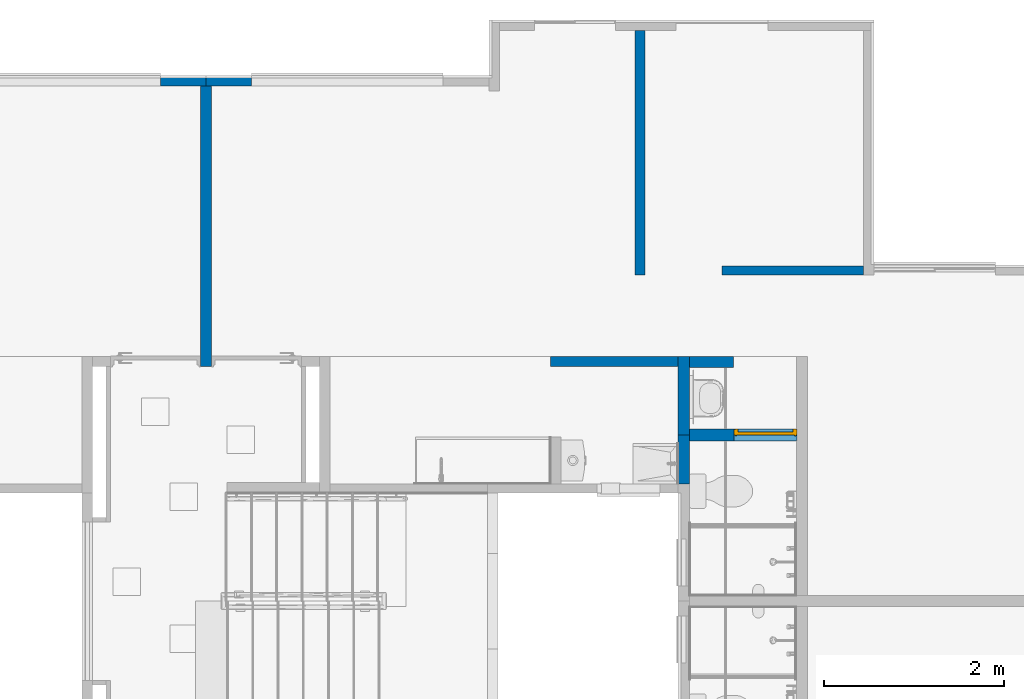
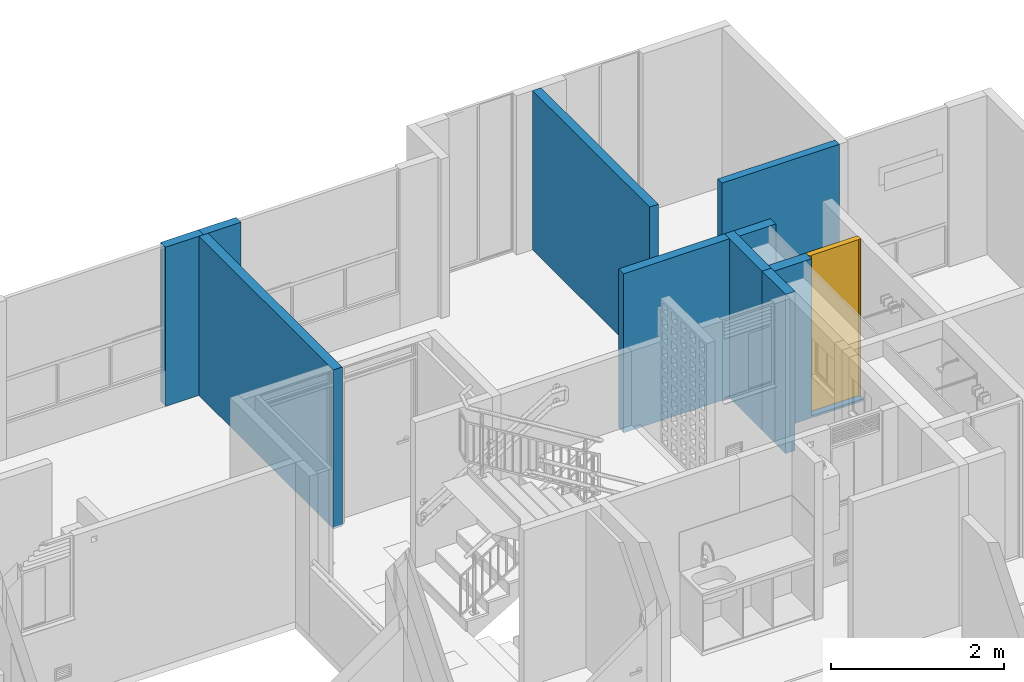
# One storey, part 22 of 48: 10 walls, 1 door, 1 opening.
"""IFC4 building model written with IfcOpenShell, lengths in metres."""

from ifc_helpers import new_model, entity, si_unit, converted_unit, derived_unit, direction, frame, origin, place, context, subcontext, project, spatial, indexed_curve, outline, extrude, polygons, source, transform, mapped, material, constituent, constituent_set, type_object, type_shapes, element, fill, save


model = new_model("IFC4")

# Units and contexts
model_context = context("Model", 3, precision=1e-05, world=origin(), true_north=direction((6.123031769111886e-17, 1.0)))
body_context = subcontext(model_context, "Body", "Model", "MODEL_VIEW")
ifc_project = project(units=[si_unit("LENGTHUNIT", "METRE"), si_unit("AREAUNIT", "SQUARE_METRE"), si_unit("VOLUMEUNIT", "CUBIC_METRE"), converted_unit("PLANEANGLEUNIT", "DEGREE", entity("IfcRatioMeasure", 0.017453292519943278), si_unit("PLANEANGLEUNIT", "RADIAN"), dimensions=[0, 0, 0, 0, 0, 0, 0]), si_unit("MASSUNIT", "GRAM", prefix="KILO"), derived_unit("MASSDENSITYUNIT", [(si_unit("MASSUNIT", "GRAM", prefix="KILO"), 1), (si_unit("LENGTHUNIT", "METRE"), -3)]), derived_unit("IONCONCENTRATIONUNIT", [(si_unit("MASSUNIT", "GRAM", prefix="KILO"), 1), (si_unit("LENGTHUNIT", "METRE"), -3)]), derived_unit("MOMENTOFINERTIAUNIT", [(si_unit("LENGTHUNIT", "METRE"), 4)]), si_unit("TIMEUNIT", "SECOND"), si_unit("FREQUENCYUNIT", "HERTZ"), si_unit("THERMODYNAMICTEMPERATUREUNIT", "DEGREE_CELSIUS"), derived_unit("THERMALTRANSMITTANCEUNIT", [(si_unit("MASSUNIT", "GRAM", prefix="KILO"), 1), (si_unit("THERMODYNAMICTEMPERATUREUNIT", "KELVIN"), -1), (si_unit("TIMEUNIT", "SECOND"), -3)]), derived_unit("THERMALCONDUCTANCEUNIT", [(si_unit("MASSUNIT", "GRAM", prefix="KILO"), 1), (si_unit("THERMODYNAMICTEMPERATUREUNIT", "KELVIN"), -1), (si_unit("TIMEUNIT", "SECOND"), -3), (si_unit("LENGTHUNIT", "METRE"), 1)]), derived_unit("VOLUMETRICFLOWRATEUNIT", [(si_unit("LENGTHUNIT", "METRE"), 3), (si_unit("TIMEUNIT", "SECOND"), -1)]), derived_unit("MASSFLOWRATEUNIT", [(si_unit("MASSUNIT", "GRAM", prefix="KILO"), 1), (si_unit("TIMEUNIT", "SECOND"), -1)]), derived_unit("ROTATIONALFREQUENCYUNIT", [(si_unit("TIMEUNIT", "SECOND"), -1)]), si_unit("ELECTRICCURRENTUNIT", "AMPERE"), si_unit("ELECTRICVOLTAGEUNIT", "VOLT"), si_unit("POWERUNIT", "WATT"), si_unit("FORCEUNIT", "NEWTON", prefix="KILO"), si_unit("ILLUMINANCEUNIT", "LUX"), si_unit("LUMINOUSFLUXUNIT", "LUMEN"), si_unit("LUMINOUSINTENSITYUNIT", "CANDELA"), derived_unit("USERDEFINED", [(si_unit("MASSUNIT", "GRAM", prefix="KILO"), -1), (si_unit("LENGTHUNIT", "METRE"), -2), (si_unit("TIMEUNIT", "SECOND"), 3), (si_unit("LUMINOUSFLUXUNIT", "LUMEN"), 1)]), derived_unit("USERDEFINED", [(si_unit("MASSUNIT", "GRAM", prefix="KILO"), 1), (si_unit("TIMEUNIT", "SECOND"), -3), (si_unit("LENGTHUNIT", "METRE"), 3), (si_unit("ELECTRICCURRENTUNIT", "AMPERE"), -2)]), derived_unit("SOUNDPOWERUNIT", [(si_unit("MASSUNIT", "GRAM", prefix="KILO"), 1), (si_unit("TIMEUNIT", "SECOND"), -3), (si_unit("LENGTHUNIT", "METRE"), 2)]), derived_unit("SOUNDPRESSUREUNIT", [(si_unit("MASSUNIT", "GRAM", prefix="KILO"), 1), (si_unit("LENGTHUNIT", "METRE"), -1), (si_unit("TIMEUNIT", "SECOND"), -2)]), derived_unit("LINEARVELOCITYUNIT", [(si_unit("LENGTHUNIT", "METRE"), 1), (si_unit("TIMEUNIT", "SECOND"), -1)]), si_unit("PRESSUREUNIT", "PASCAL"), derived_unit("USERDEFINED", [(si_unit("MASSUNIT", "GRAM", prefix="KILO"), 1), (si_unit("LENGTHUNIT", "METRE"), -2), (si_unit("TIMEUNIT", "SECOND"), -2)]), derived_unit("LINEARFORCEUNIT", [(si_unit("MASSUNIT", "GRAM", prefix="KILO"), 1), (si_unit("TIMEUNIT", "SECOND"), -2)]), derived_unit("PLANARFORCEUNIT", [(si_unit("MASSUNIT", "GRAM", prefix="KILO"), 1), (si_unit("LENGTHUNIT", "METRE"), -1), (si_unit("TIMEUNIT", "SECOND"), -2)]), derived_unit("SPECIFICHEATCAPACITYUNIT", [(si_unit("THERMODYNAMICTEMPERATUREUNIT", "KELVIN"), -1), (si_unit("LENGTHUNIT", "METRE"), 2), (si_unit("TIMEUNIT", "SECOND"), -2)]), derived_unit("HEATINGVALUEUNIT", [(si_unit("LENGTHUNIT", "METRE"), 2), (si_unit("TIMEUNIT", "SECOND"), -2)]), derived_unit("VAPORPERMEABILITYUNIT", [(si_unit("LENGTHUNIT", "METRE"), -1), (si_unit("TIMEUNIT", "SECOND"), 1)]), derived_unit("DYNAMICVISCOSITYUNIT", [(si_unit("MASSUNIT", "GRAM", prefix="KILO"), 1), (si_unit("TIMEUNIT", "SECOND"), -1), (si_unit("LENGTHUNIT", "METRE"), -1)]), derived_unit("THERMALEXPANSIONCOEFFICIENTUNIT", [(si_unit("THERMODYNAMICTEMPERATUREUNIT", "KELVIN"), -1)]), derived_unit("MODULUSOFELASTICITYUNIT", [(si_unit("MASSUNIT", "GRAM", prefix="KILO"), 1), (si_unit("LENGTHUNIT", "METRE"), -1), (si_unit("TIMEUNIT", "SECOND"), -2)]), derived_unit("ISOTHERMALMOISTURECAPACITYUNIT", [(si_unit("LENGTHUNIT", "METRE"), 3), (si_unit("MASSUNIT", "GRAM", prefix="KILO"), -1)]), derived_unit("MOISTUREDIFFUSIVITYUNIT", [(si_unit("TIMEUNIT", "SECOND"), -1), (si_unit("LENGTHUNIT", "METRE"), 2)])], contexts=[model_context])

# Site, building, storey
site_placement = place(None, origin())
site = spatial("IfcSite", under=ifc_project, at=site_placement, Name="Default", CompositionType="ELEMENT")
building_placement = place(site_placement, origin())
building = spatial("IfcBuilding", under=site, at=building_placement, CompositionType="ELEMENT")
storey_placement = place(building_placement, frame((0.0, 0.0, 7.050000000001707)))
storey = spatial("IfcBuildingStorey", under=building, at=storey_placement, Name="Nivel 4", CompositionType="ELEMENT", Elevation=7.050000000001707)

# Walls
ifc_material_1 = material(Name="Concreto (Aire)", Category="Materials")
wall_type_1 = type_object("IfcWallType", Name="Basic Wall:B2010 - 0.12m - Muro interior en concreto", PredefinedType="STANDARD")
wall_1_placement = place(storey_placement, frame((9.32250000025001, -3.8249999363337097, 0.0), z_axis=(0.0, 0.0, 1.0), x_axis=(0.0, 1.0, 0.0)))
element("IfcWall", 1, at=wall_1_placement, inside=storey, type_object=wall_type_1, material=ifc_material_1, Name="Basic Wall:B2010 - 0.12m - Muro interior en concreto", ObjectType="Basic Wall:B2010 - 0.12m - Muro interior en concreto", PredefinedType="NOTDEFINED", context=body_context, shape_type="SweptSolid", body=[
    extrude(outline(indexed_curve([(3.1149999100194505, 0.06000000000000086), (8.03641024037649e-16, 0.060000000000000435), (2.792261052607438e-16, -0.060000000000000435), (3.1149999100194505, -0.06000000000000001), (3.1149999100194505, 0.06000000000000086)], self_intersect=False)), origin(), (0.0, 0.0, 1.0), 2.250000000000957),
])
ifc_material_2 = material(Name="LADRILLO CLARO", Category="Materials")
wall_type_2 = type_object("IfcWallType", Name="Basic Wall:B2010 - 0.115m - ME mampostería no estructural - Ladrillo", PredefinedType="STANDARD")
wall_2_placement = place(storey_placement, frame((8.817499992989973, -0.6525000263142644, 0.0)))
element("IfcWall", 2, at=wall_2_placement, inside=storey, type_object=wall_type_2, material=ifc_material_2, Name="Basic Wall:B2010 - 0.115m - ME mampostería no estructural - Ladrillo", ObjectType="Basic Wall:B2010 - 0.115m - ME mampostería no estructural - Ladrillo", PredefinedType="NOTDEFINED", context=body_context, shape_type="SweptSolid", body=[
    extrude(outline(indexed_curve([(0.505000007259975, 0.057500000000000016), (-1.5987656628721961e-15, 0.05749999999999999), (-5.6696859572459e-16, -0.05750000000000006), (0.505000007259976, -0.05750000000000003), (0.505000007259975, 0.057500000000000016)], self_intersect=False)), origin(), (0.0, 0.0, 1.0), 2.2500000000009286),
])
wall_3_placement = place(storey_placement, frame((9.827500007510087, -0.6525000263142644, 0.0), z_axis=(0.0, 0.0, 1.0), x_axis=(-1.0, 0.0, 0.0)))
element("IfcWall", 3, at=wall_3_placement, inside=storey, type_object=wall_type_2, material=ifc_material_2, Name="Basic Wall:B2010 - 0.115m - ME mampostería no estructural - Ladrillo", ObjectType="Basic Wall:B2010 - 0.115m - ME mampostería no estructural - Ladrillo", PredefinedType="NOTDEFINED", context=body_context, shape_type="SweptSolid", body=[
    extrude(outline(indexed_curve([(0.5050000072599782, 0.05750000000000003), (-5.6696859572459e-16, 0.05750000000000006), (5.669685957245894e-16, -0.05749999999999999), (0.5050000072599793, -0.057500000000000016), (0.5050000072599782, 0.05750000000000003)], self_intersect=False)), origin(), (0.0, 0.0, 1.0), 2.2500000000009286),
])
ifc_material_3 = material(Name="Ladrillo claro (Aire)", Category="Materials")
wall_type_3 = type_object("IfcWallType", Name="Basic Wall:B2010 - 0.115m - Muro interior en mampostería - Ladrillo", PredefinedType="STANDARD")
wall_4_placement = place(storey_placement, frame((14.135000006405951, -0.09500002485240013, 0.0), z_axis=(0.0, 0.0, 1.0), x_axis=(0.0, -1.0, 0.0)))
element("IfcWall", 4, at=wall_4_placement, inside=storey, type_object=wall_type_3, material=ifc_material_3, Name="Basic Wall:B2010 - 0.115m - Muro interior en mampostería - Ladrillo", ObjectType="Basic Wall:B2010 - 0.115m - Muro interior en mampostería - Ladrillo", PredefinedType="NOTDEFINED", context=body_context, shape_type="SweptSolid", body=[
    extrude(outline(indexed_curve([(2.7150000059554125, 0.05749999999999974), (-3.2594452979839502e-18, 0.057499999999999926), (3.2594452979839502e-18, -0.057499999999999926), (2.7150000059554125, -0.05750000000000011), (2.7150000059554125, 0.05749999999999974)], self_intersect=False)), origin(), (0.0, 0.0, 1.0), 2.2499999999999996),
])
wall_5_placement = place(storey_placement, frame((14.557500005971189, -3.7675000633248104, 0.0), z_axis=(0.0, 0.0, 1.0), x_axis=(-1.0, 0.0, 0.0)))
element("IfcWall", 5, at=wall_5_placement, inside=storey, type_object=wall_type_3, material=ifc_material_3, Name="Basic Wall:B2010 - 0.115m - Muro interior en mampostería - Ladrillo", ObjectType="Basic Wall:B2010 - 0.115m - Muro interior en mampostería - Ladrillo", PredefinedType="NOTDEFINED", context=body_context, shape_type="SweptSolid", body=[
    extrude(outline(indexed_curve([(1.414999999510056, 0.057499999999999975), (1.9595423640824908e-16, 0.057499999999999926), (-1.9595423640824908e-16, -0.057499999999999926), (1.4149999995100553, -0.05749999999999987), (1.414999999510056, 0.057499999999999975)], self_intersect=False)), origin(), (0.0, 0.0, 1.0), 2.2499999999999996),
])
wall_type_4 = type_object("IfcWallType", Name="Basic Wall:B2010 - 0.10m - Muro interior en concreto", PredefinedType="STANDARD")
wall_6_placement = place(storey_placement, frame((16.612500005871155, -2.7600000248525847, 0.0), z_axis=(0.0, 0.0, 1.0), x_axis=(-1.0, 0.0, 0.0)))
element("IfcWall", 6, at=wall_6_placement, inside=storey, type_object=wall_type_4, material=ifc_material_1, Name="Basic Wall:B2010 - 0.10m - Muro interior en concreto", ObjectType="Basic Wall:B2010 - 0.10m - Muro interior en concreto", PredefinedType="NOTDEFINED", context=body_context, shape_type="SweptSolid", body=[
    extrude(outline(indexed_curve([(1.569999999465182, 0.050000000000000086), (-1.0889063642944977e-15, 0.05), (-3.2425621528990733e-15, -0.05), (1.5699999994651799, -0.04999999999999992), (1.569999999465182, 0.050000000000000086)], self_intersect=False)), origin(), (0.0, 0.0, 1.0), 2.2499999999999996),
])
ifc_material_4 = material(Name="Pañete", Category="Materials")
ifc_constituent_1 = constituent(ifc_material_4, Name="Pañete", Category="Materials")
ifc_constituent_2 = constituent(ifc_material_3, Name="Ladrillo claro (Aire)", Category="Materials")
ifc_constituent_set_1 = constituent_set(constituents=[ifc_constituent_1, ifc_constituent_2], Name="Basic Wall:B2010 - 0.115m - Muro interior en mampostería - Ladrillo + Pañete")
wall_type_5 = type_object("IfcWallType", Name="Basic Wall:B2010 - 0.115m - Muro interior en mampostería - Ladrillo + Pañete", PredefinedType="STANDARD", material=ifc_constituent_set_1)
wall_7_placement = place(storey_placement, frame((15.172500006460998, -3.7725000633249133, 0.0), z_axis=(0.0, 0.0, 1.0), x_axis=(-1.0, 0.0, 0.0)))
element("IfcWall", 7, at=wall_7_placement, inside=storey, type_object=wall_type_5, material=ifc_constituent_set_1, Name="Basic Wall:B2010 - 0.115m - Muro interior en mampostería - Ladrillo + Pañete", ObjectType="Basic Wall:B2010 - 0.115m - Muro interior en mampostería - Ladrillo + Pañete", PredefinedType="NOTDEFINED", context=body_context, shape_type="SweptSolid", body=[
    extrude(outline(indexed_curve([(-0.004999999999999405, -0.24500000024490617), (0.0050000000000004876, -0.24500000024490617), (0.004999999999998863, 0.245000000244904), (-0.005000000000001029, 0.245000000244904), (-0.004999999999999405, -0.24500000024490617)], self_intersect=False)), frame((0.24500000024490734, 0.057499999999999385, 0.0), z_axis=(0.0, 0.0, 1.0), x_axis=(0.0, -1.0, 0.0)), (0.0, 0.0, 1.0), 2.2500000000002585),
    extrude(outline(indexed_curve([(-0.057499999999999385, -0.245000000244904), (0.05750000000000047, -0.245000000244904), (0.057499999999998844, 0.24500000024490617), (-0.05750000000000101, 0.24500000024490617), (-0.057499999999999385, -0.245000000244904)], self_intersect=False)), frame((0.24500000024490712, -0.004999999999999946, 0.0), z_axis=(0.0, 0.0, 1.0), x_axis=(0.0, 1.0, 0.0)), (0.0, 0.0, 1.0), 2.2500000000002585),
])

# Wall, opening, door
ifc_constituent_3 = constituent(ifc_material_4, Name="Pañete", Category="Materials")
ifc_constituent_4 = constituent(ifc_material_2, Name="LADRILLO CLARO", Category="Materials")
ifc_constituent_5 = constituent(ifc_material_4, Name="Pañete (2)", Category="Materials")
ifc_constituent_set_2 = constituent_set(constituents=[ifc_constituent_3, ifc_constituent_4, ifc_constituent_5], Name="Basic Wall:B2010 - 0.115m - MI  mampostería no estructural - Pañete + Ladrillo + Pañete")
wall_type_6 = type_object("IfcWallType", Name="Basic Wall:B2010 - 0.115m - MI  mampostería no estructural - Pañete + Ladrillo + Pañete", PredefinedType="STANDARD", material=ifc_constituent_set_2)
wall_8_placement = place(storey_placement, frame((14.682500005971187, -4.582500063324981, 0.0)))
wall_8 = element("IfcWall", 8, at=wall_8_placement, inside=storey, type_object=wall_type_6, material=ifc_constituent_set_2, Name="Basic Wall:B2010 - 0.115m - MI  mampostería no estructural - Pañete + Ladrillo + Pañete", ObjectType="Basic Wall:B2010 - 0.115m - MI  mampostería no estructural - Pañete + Ladrillo + Pañete", PredefinedType="NOTDEFINED", context=body_context, shape_type="SweptSolid", body=[
    extrude(outline(indexed_curve([(-1.1325000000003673, -0.5199994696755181), (1.1175000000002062, -0.5199994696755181), (1.1175000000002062, -0.12999946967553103), (1.1175000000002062, -0.10999946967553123), (1.1175000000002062, -0.0250005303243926), (-1.102500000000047, -0.0250005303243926), (-1.102500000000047, 0.6649994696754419), (-1.1325000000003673, 0.6649994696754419), (-1.1325000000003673, -0.5199994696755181)], self_intersect=False)), frame((0.5199994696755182, -0.06750000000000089, 1.1325000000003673), z_axis=(0.0, 1.0, 0.0), x_axis=(0.0, 0.0, 1.0)), (0.0, 0.0, 1.0), 0.010000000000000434),
    extrude(outline(indexed_curve([(-0.7600000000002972, -0.5599992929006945), (1.4900000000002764, -0.5599992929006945), (1.4900000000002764, -0.06500035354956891), (-0.729999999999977, -0.06500035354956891), (-0.729999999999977, 0.6249996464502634), (-0.7600000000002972, 0.6249996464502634), (-0.7600000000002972, -0.5599992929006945)], self_intersect=False)), frame((0.5599992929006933, 0.057499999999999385, 0.7600000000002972), z_axis=(0.0, 1.0, 0.0), x_axis=(0.0, 0.0, 1.0)), (0.0, 0.0, 1.0), 0.009999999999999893),
    extrude(outline(indexed_curve([(-0.7600000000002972, -0.5633326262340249), (1.4900000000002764, -0.563332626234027), (1.4900000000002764, -0.06833368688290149), (-0.729999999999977, -0.06833368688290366), (-0.729999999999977, 0.6316663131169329), (-0.7600000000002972, 0.6316663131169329), (-0.7600000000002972, -0.5633326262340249)], self_intersect=False)), frame((0.563332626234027, -0.05750000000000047, 0.7600000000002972), z_axis=(0.0, 1.0, 0.0), x_axis=(0.0, 0.0, 1.0)), (0.0, 0.0, 1.0), 0.11499999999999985),
])
opening_placement = place(wall_8_placement, frame((1.1949989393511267, 0.06749999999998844, 0.029999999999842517)))
opening = element("IfcOpeningElement", 9, at=opening_placement, cuts=wall_8, Name="C1030 - Puerta batiente - Madera+Aluminio:C1030 - 0.70 x 2.22 - Puerta batiente - Madera+ Metal:1", PredefinedType="OPENING", context=body_context, shape_type="SweptSolid", body=[
    extrude(outline(indexed_curve([(1.438182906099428e-16, 0.7000000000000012), (1.438182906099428e-16, 0.0), (2.219999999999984, 0.0), (2.2199999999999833, 0.7000000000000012), (1.438182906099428e-16, 0.7000000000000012)], self_intersect=False)), frame((0.0, 0.0, 0.0), z_axis=(0.0, -1.0, 0.0), x_axis=(0.0, 0.0, 1.0)), (0.0, 0.0, 1.0), 0.13499999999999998),
])
ifc_material_5 = material(Name="<Unnamed>")
door_type = type_object("IfcDoorType", Name="C1030 - Puerta batiente - Madera+Aluminio:C1030 - 0.70 x 2.22 - Puerta batiente - Madera+ Metal", OperationType="SINGLE_SWING_LEFT", PredefinedType="DOOR", material=ifc_material_5)
shared_shape = source(origin(), body_context, "Body", "Tessellation", [
    polygons([(0.6699999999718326, 0.06499999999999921, 0.009880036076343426), (0.6699999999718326, 0.0324999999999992, 0.009880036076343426), (0.030000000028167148, 0.0324999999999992, 0.009880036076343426), (0.030000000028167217, 0.06499999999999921, 0.009880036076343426), (0.6699999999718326, 0.06499999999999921, 2.2050000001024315), (0.6699999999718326, 0.0324999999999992, 2.2050000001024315), (0.030000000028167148, 0.0324999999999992, 2.2050000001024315), (0.030000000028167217, 0.06499999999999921, 2.2050000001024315)], [[[1, 2, 3, 4]], [[5, 6, 2, 1]], [[6, 7, 3, 2]], [[7, 8, 4, 3]], [[8, 5, 1, 4]], [[5, 8, 7, 6]]], closed=True),
    polygons([(0.6849999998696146, 0.0649999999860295, 0.0), (0.7, 0.0649999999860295, 0.0), (0.7, 0.0074999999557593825, 0.0), (0.6849999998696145, 0.007499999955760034, 0.0), (0.6849999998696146, -5.075939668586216e-17, 0.0), (0.6549999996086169, -1.6919798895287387e-17, 0.0), (0.6549999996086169, 0.04000000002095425, 0.0), (0.6699999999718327, 0.04000000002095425, 0.0), (0.6699999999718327, 0.07999999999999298, 0.0), (0.6849999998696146, 0.07999999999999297, 0.0), (0.7, 0.0074999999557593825, 2.2199999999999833), (0.6849999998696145, 0.007499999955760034, 2.2199999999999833), (0.6849999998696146, 0.0649999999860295, 2.2199999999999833), (0.7, 0.0649999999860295, 2.2199999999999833), (0.015000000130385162, 0.06499999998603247, 0.0), (0.015000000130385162, 0.07999999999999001, 0.0), (0.030000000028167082, 0.07999999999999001, 0.0), (0.030000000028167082, 0.04000000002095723, 0.0), (0.04500000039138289, 0.04000000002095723, 0.0), (0.04500000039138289, 0.0, 0.0), (0.01500000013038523, 0.0, 0.0), (0.015000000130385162, 0.007499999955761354, 0.0), (0.0, 0.007499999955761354, 0.0), (0.0, 0.06499999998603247, 0.0), (0.0, 0.06499999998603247, 2.2199999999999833), (0.015000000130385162, 0.06499999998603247, 2.2199999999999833), (0.015000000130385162, 0.007499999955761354, 2.2199999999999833), (0.0, 0.007499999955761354, 2.2199999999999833), (0.04500000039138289, 0.04000000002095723, 2.2050000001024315), (0.04500000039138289, 0.03250000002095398, 2.2050000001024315), (0.04500000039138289, 0.03250000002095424, 2.189999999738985), (0.04500000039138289, 0.0, 2.189999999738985), (0.6549999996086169, -1.6919798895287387e-17, 2.189999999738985), (0.6549999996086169, 0.032500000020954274, 2.189999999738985), (0.6549999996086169, 0.03250000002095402, 2.2050000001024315), (0.6549999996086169, 0.04000000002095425, 2.2050000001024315), (0.030000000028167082, 0.07999999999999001, 2.2199999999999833), (0.030000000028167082, 0.07249999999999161, 2.2199999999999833), (0.030000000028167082, 0.07249999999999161, 2.2050000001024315), (0.030000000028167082, 0.04000000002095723, 2.2050000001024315), (0.6699999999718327, 0.04000000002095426, 2.2050000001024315), (0.6699999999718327, 0.07249999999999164, 2.2050000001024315), (0.6699999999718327, 0.07249999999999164, 2.2199999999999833), (0.6699999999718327, 0.07999999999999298, 2.2199999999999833), (0.015000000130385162, 0.07999999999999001, 2.2199999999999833), (0.6849999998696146, -5.075939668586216e-17, 2.2199999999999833), (0.01500000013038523, 0.0, 2.2199999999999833), (0.6849999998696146, 0.07999999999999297, 2.2199999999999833)], [[[1, 2, 3, 4, 5, 6, 7, 8, 9, 10]], [[11, 12, 4, 3]], [[13, 14, 2, 1]], [[15, 16, 17, 18, 19, 20, 21, 22, 23, 24]], [[25, 26, 15, 24]], [[27, 28, 23, 22]], [[20, 19, 29, 30, 31, 32]], [[7, 6, 33, 34, 35, 36]], [[18, 17, 37, 38, 39, 40]], [[9, 8, 41, 42, 43, 44]], [[28, 25, 24, 23]], [[14, 11, 3, 2]], [[26, 45, 16, 15]], [[45, 37, 17, 16]], [[19, 18, 40, 29]], [[21, 20, 32, 33, 6, 5, 46, 47]], [[47, 27, 22, 21]], [[12, 46, 5, 4]], [[48, 13, 1, 10]], [[26, 25, 28, 27, 47, 46, 12, 11, 14, 13, 48, 44, 43, 38, 37, 45]], [[39, 42, 41, 36, 35, 30, 29, 40]], [[33, 32, 31, 34]], [[8, 7, 36, 41]], [[44, 48, 10, 9]], [[34, 31, 30, 35]], [[42, 39, 38, 43]]], closed=True),
])
type_shapes(door_type, [shared_shape])
door_placement = place(opening_placement, frame((0.0, 0.0, 0.0), z_axis=(0.0, 0.0, 1.0), x_axis=(-1.0, 0.0, 0.0)))
door = element("IfcDoor", 10, at=door_placement, inside=storey, type_object=door_type, material=ifc_material_5, Name="C1030 - Puerta batiente - Madera+Aluminio:C1030 - 0.70 x 2.22 - Puerta batiente - Madera+ Metal", ObjectType="C1030 - Puerta batiente - Madera+Aluminio:C1030 - 0.70 x 2.22 - Puerta batiente - Madera+ Metal", OperationType="NOTDEFINED", OverallHeight=2.2199999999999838, OverallWidth=0.7000000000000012, PredefinedType="DOOR", context=body_context, shape_type="MappedRepresentation", body=[
    mapped(shared_shape, transform((0.0, 0.0, 0.0), scale=1.0)),
])
fill(opening, door)

# Walls
ifc_material_6 = material(Name="Pañete, estuco y pintura", Category="Materials")
ifc_constituent_6 = constituent(ifc_material_6, Name="Pañete, estuco y pintura", Category="Materials")
ifc_constituent_7 = constituent(ifc_material_3, Name="Ladrillo claro (Aire)", Category="Materials")
ifc_constituent_set_3 = constituent_set(constituents=[ifc_constituent_6, ifc_constituent_7], Name="Basic Wall:B2010 - 0.115m - Muro interior en mampostería - Ladrillo + Pañete+ estuco+ pintura")
wall_type_7 = type_object("IfcWallType", Name="Basic Wall:B2010 - 0.115m - Muro interior en mampostería - Ladrillo + Pañete+ estuco+ pintura", PredefinedType="STANDARD", material=ifc_constituent_set_3)
wall_9_placement = place(storey_placement, frame((14.620000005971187, -3.7100000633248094, 0.0), z_axis=(0.0, 0.0, 1.0), x_axis=(0.0, -1.0, 0.0)))
element("IfcWall", 11, at=wall_9_placement, inside=storey, type_object=wall_type_7, material=ifc_constituent_set_3, Name="Basic Wall:B2010 - 0.115m - Muro interior en mampostería - Ladrillo + Pañete+ estuco+ pintura", ObjectType="Basic Wall:B2010 - 0.115m - Muro interior en mampostería - Ladrillo + Pañete+ estuco+ pintura", PredefinedType="NOTDEFINED", context=body_context, shape_type="SweptSolid", body=[
    extrude(outline(indexed_curve([(-0.35916666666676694, -0.0033333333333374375), (0.3208333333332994, -0.0033333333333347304), (0.44583333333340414, -0.003333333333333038), (0.4458333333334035, 0.0066666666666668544), (-0.42666666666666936, 0.006666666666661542), (-0.4266666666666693, -0.0033333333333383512), (-0.35916666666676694, -0.0033333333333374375)], self_intersect=False)), frame((0.4458333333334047, 0.05916666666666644, 0.0), z_axis=(0.0, 0.0, 1.0), x_axis=(-1.0, 0.0, 0.0)), (0.0, 0.0, 1.0), 2.2499999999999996),
    extrude(outline(indexed_curve([(-0.2570000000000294, -0.046000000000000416), (0.5005000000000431, -0.046000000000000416), (0.5005000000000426, 0.06899999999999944), (-0.3720000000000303, 0.06899999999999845), (-0.37200000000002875, -0.046000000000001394), (-0.2570000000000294, -0.046000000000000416)], self_intersect=False)), frame((0.37200000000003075, -0.016499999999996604, 0.0)), (0.0, 0.0, 1.0), 2.2499999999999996),
])
wall_10_placement = place(storey_placement, frame((14.620000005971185, -4.582500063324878, 0.0), z_axis=(0.0, 0.0, 1.0), x_axis=(0.0, -1.0, 0.0)))
element("IfcWall", 12, at=wall_10_placement, inside=storey, type_object=wall_type_7, material=ifc_constituent_set_3, Name="Basic Wall:B2010 - 0.115m - Muro interior en mampostería - Ladrillo + Pañete+ estuco+ pintura", ObjectType="Basic Wall:B2010 - 0.115m - Muro interior en mampostería - Ladrillo + Pañete+ estuco+ pintura", PredefinedType="NOTDEFINED", context=body_context, shape_type="SweptSolid", body=[
    extrude(outline(indexed_curve([(0.162805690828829, -0.004000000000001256), (0.23030569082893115, -0.004000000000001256), (0.23030569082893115, 0.005999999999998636), (-0.3117085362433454, 0.006000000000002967), (-0.3117085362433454, -0.003999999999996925), (0.162805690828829, -0.004000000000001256)], self_intersect=False)), frame((0.23030569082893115, 0.05850000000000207, 0.0), z_axis=(0.0, 0.0, 1.0), x_axis=(-1.0, 0.0, 0.0)), (0.0, 0.0, 1.0), 2.2499999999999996),
    extrude(outline(indexed_curve([(-0.12467143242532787, -0.0383333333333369), (-0.09067143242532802, -0.0383333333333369), (0.3248428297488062, -0.03833333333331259), (0.32484282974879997, 0.07666666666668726), (-0.21717139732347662, 0.07666666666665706), (-0.21717139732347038, -0.03833333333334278), (-0.12467143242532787, -0.0383333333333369)], self_intersect=False)), frame((0.2171713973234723, -0.024166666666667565, 0.0)), (0.0, 0.0, 1.0), 2.2499999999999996),
])

save(model, "model.ifc")
